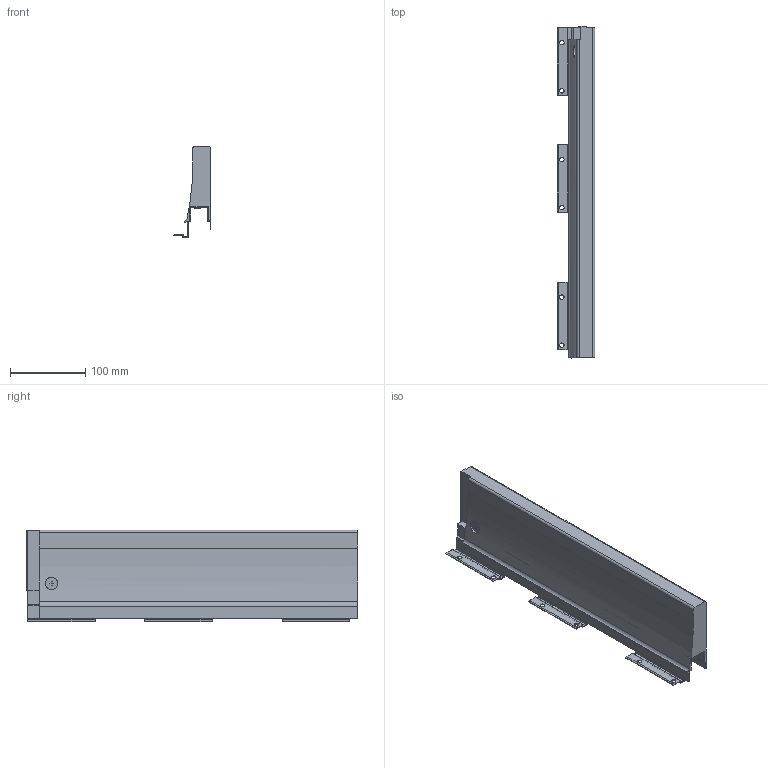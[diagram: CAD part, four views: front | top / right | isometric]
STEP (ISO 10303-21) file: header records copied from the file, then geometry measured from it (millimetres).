
FILE_DESCRIPTION (( 'STEP AP214' ), '1' );
FILE_NAME ('_XP Agantis Dekorseite H127 NL450 RE.step', '2010-07-08T06:22:06', ( 'grass' ), ( '' ), 'SwSTEP 2.0', 'SolidWorks 2010', '' );
FILE_SCHEMA (( 'AUTOMOTIVE_DESIGN' ));
Length unit declared in the file: millimetre
Products named in the file (1): _XP Agantis Dekorseite H127 NL450 RE
Bounding box: 50.01 x 441.5 x 121.5 mm (x, y, z)
Volume: 964713.5 mm3; surface area: 180142.1 mm2
Topology: 1 solids, 1 shells, 147 faces, 427 edges, 279 vertices
Faces by surface type: plane 118, cylinder 29
Entity records: 4935 total; most frequent: CARTESIAN_POINT 941, ORIENTED_EDGE 854, DIRECTION 778, EDGE_CURVE 427, LINE 368, VECTOR 368, VERTEX_POINT 279, AXIS2_PLACEMENT_3D 205
